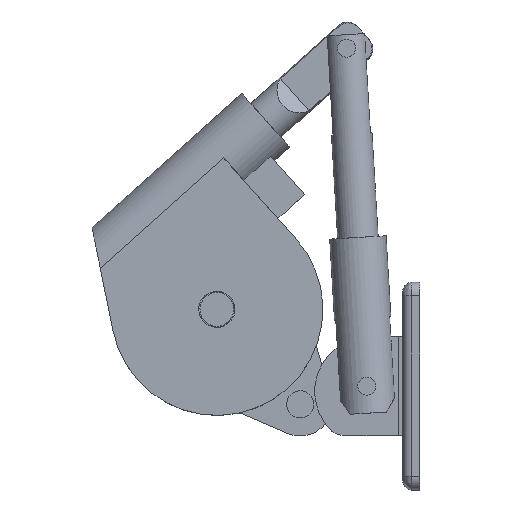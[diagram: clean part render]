
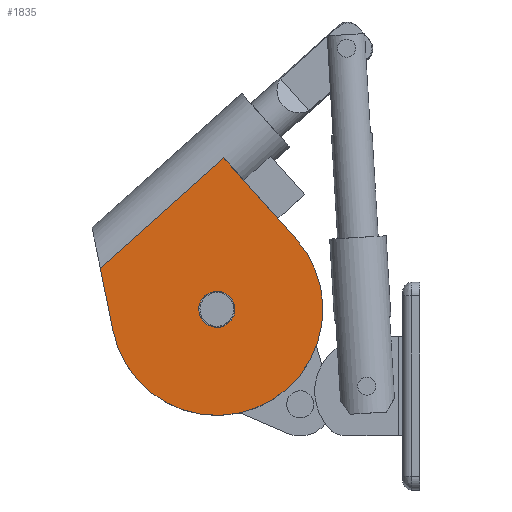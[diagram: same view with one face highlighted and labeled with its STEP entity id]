
A CAD part, top view. The second image highlights one B-rep face of the part: STEP entity #1835.
In plain terms, the highlighted planar face has unit normal (0, 0, 1).
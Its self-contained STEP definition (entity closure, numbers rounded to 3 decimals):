
#177=FACE_BOUND('',#627,.T.);
#264=LINE('',#2936,#394);
#267=LINE('',#2944,#397);
#270=LINE('',#2949,#400);
#394=VECTOR('',#2362,10.);
#397=VECTOR('',#2369,10.);
#400=VECTOR('',#2374,10.);
#521=FACE_OUTER_BOUND('',#626,.T.);
#626=EDGE_LOOP('',(#1309,#1310,#1311,#1312));
#627=EDGE_LOOP('',(#1313));
#761=CIRCLE('',#2119,23.5);
#762=CIRCLE('',#2120,4.);
#865=VERTEX_POINT('',#2933);
#866=VERTEX_POINT('',#2935);
#869=VERTEX_POINT('',#2942);
#870=VERTEX_POINT('',#2948);
#871=VERTEX_POINT('',#2951);
#1035=EDGE_CURVE('',#866,#865,#264,.T.);
#1039=EDGE_CURVE('',#869,#865,#267,.T.);
#1042=EDGE_CURVE('',#869,#870,#270,.T.);
#1043=EDGE_CURVE('',#870,#866,#761,.T.);
#1044=EDGE_CURVE('',#871,#871,#762,.T.);
#1309=ORIENTED_EDGE('',*,*,#1039,.F.);
#1310=ORIENTED_EDGE('',*,*,#1042,.T.);
#1311=ORIENTED_EDGE('',*,*,#1043,.T.);
#1312=ORIENTED_EDGE('',*,*,#1035,.T.);
#1313=ORIENTED_EDGE('',*,*,#1044,.T.);
#1775=PLANE('',#2118);
#1835=ADVANCED_FACE('',(#521,#177),#1775,.T.);
#2118=AXIS2_PLACEMENT_3D('',#2947,#2372,#2373);
#2119=AXIS2_PLACEMENT_3D('',#2950,#2375,#2376);
#2120=AXIS2_PLACEMENT_3D('',#2952,#2377,#2378);
#2362=DIRECTION('',(0.,1.,0.));
#2369=DIRECTION('',(1.,0.,0.));
#2372=DIRECTION('center_axis',(0.,0.,1.));
#2373=DIRECTION('ref_axis',(1.,0.,0.));
#2374=DIRECTION('',(-0.505,-0.863,0.));
#2375=DIRECTION('center_axis',(0.,0.,1.));
#2376=DIRECTION('ref_axis',(1.,0.,0.));
#2377=DIRECTION('center_axis',(0.,0.,-1.));
#2378=DIRECTION('ref_axis',(-1.,0.,0.));
#2933=CARTESIAN_POINT('',(23.5,24.,8.));
#2935=CARTESIAN_POINT('',(23.5,0.,8.));
#2936=CARTESIAN_POINT('',(23.5,0.,8.));
#2942=CARTESIAN_POINT('',(-13.182,24.,8.));
#2944=CARTESIAN_POINT('',(14.995,24.,8.));
#2947=CARTESIAN_POINT('Origin',(6.49,21.14,8.));
#2948=CARTESIAN_POINT('',(-20.282,11.871,8.));
#2949=CARTESIAN_POINT('',(-8.5,32.,8.));
#2950=CARTESIAN_POINT('Origin',(0.,0.,8.));
#2951=CARTESIAN_POINT('',(4.,0.,8.));
#2952=CARTESIAN_POINT('Origin',(0.,0.,8.));
